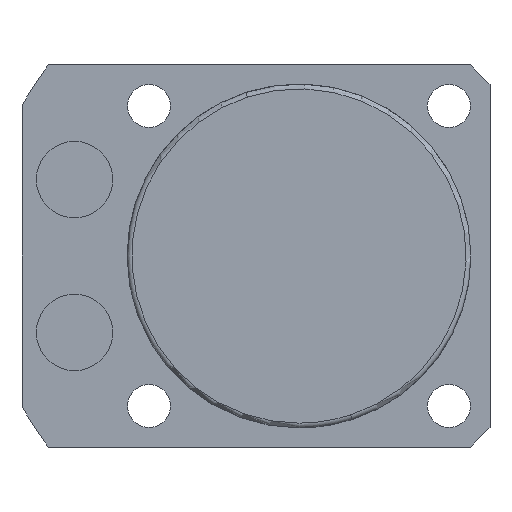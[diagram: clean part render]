
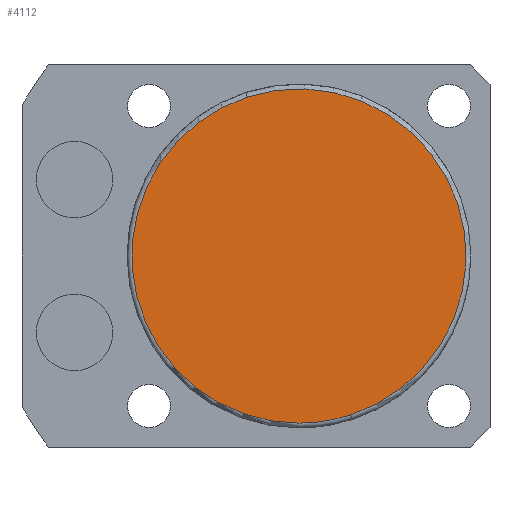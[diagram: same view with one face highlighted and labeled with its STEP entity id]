
A CAD part, front view. The second image highlights one B-rep face of the part: STEP entity #4112.
In plain terms, the highlighted planar face has unit normal (0, -1, 0).
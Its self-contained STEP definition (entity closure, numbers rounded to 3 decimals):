
#4045=CARTESIAN_POINT('',(5.408,-55.5,-16.643));
#4046=VERTEX_POINT('',#4045);
#4064=CARTESIAN_POINT('',(-5.408,-55.5,16.643));
#4065=VERTEX_POINT('',#4064);
#4073=CARTESIAN_POINT('',(0.0,-55.5,0.0));
#4074=DIRECTION('',(0.0,-1.0,0.0));
#4075=DIRECTION('',(0.0,0.0,-1.0));
#4076=AXIS2_PLACEMENT_3D('',#4073,#4074,#4075);
#4077=CIRCLE('',#4076,17.5);
#4078=EDGE_CURVE('no 2738',#4046,#4065,#4077,.T.);
#4088=CARTESIAN_POINT('',(0.0,-55.5,-17.5));
#4089=VERTEX_POINT('',#4088);
#4090=CARTESIAN_POINT('',(0.0,-55.5,0.0));
#4091=DIRECTION('',(0.0,-1.0,0.0));
#4092=DIRECTION('',(0.0,0.0,-1.0));
#4093=AXIS2_PLACEMENT_3D('',#4090,#4091,#4092);
#4094=CIRCLE('',#4093,17.5);
#4095=EDGE_CURVE('no 2747',#4089,#4046,#4094,.T.);
#4096=ORIENTED_EDGE('',*,*,#4095,.T.);
#4097=ORIENTED_EDGE('',*,*,#4078,.T.);
#4098=CARTESIAN_POINT('',(0.0,-55.5,0.0));
#4099=DIRECTION('',(0.0,-1.0,0.0));
#4100=DIRECTION('',(0.0,0.0,-1.0));
#4101=AXIS2_PLACEMENT_3D('',#4098,#4099,#4100);
#4102=CIRCLE('',#4101,17.5);
#4103=EDGE_CURVE('no 2753',#4065,#4089,#4102,.T.);
#4104=ORIENTED_EDGE('',*,*,#4103,.T.);
#4105=EDGE_LOOP('',(#4096,#4097,#4104));
#4106=FACE_OUTER_BOUND('',#4105,.T.);
#4107=CARTESIAN_POINT('',(0.0,-55.5,0.0));
#4108=DIRECTION('',(0.0,-1.0,0.0));
#4109=DIRECTION('',(0.0,0.0,-1.0));
#4110=AXIS2_PLACEMENT_3D('',#4107,#4108,#4109);
#4111=PLANE('',#4110);
#4112=ADVANCED_FACE('no 2740',(#4106),#4111,.T.);
